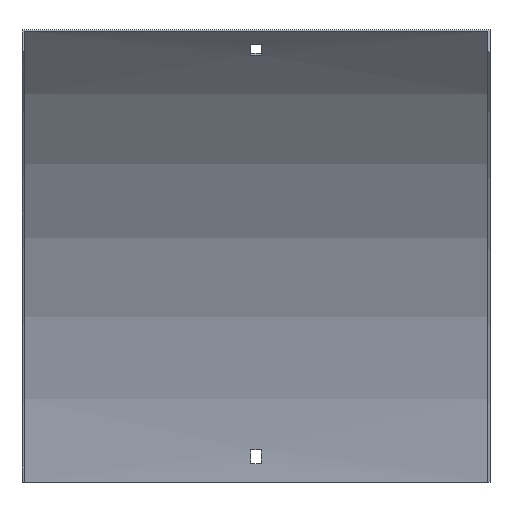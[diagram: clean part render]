
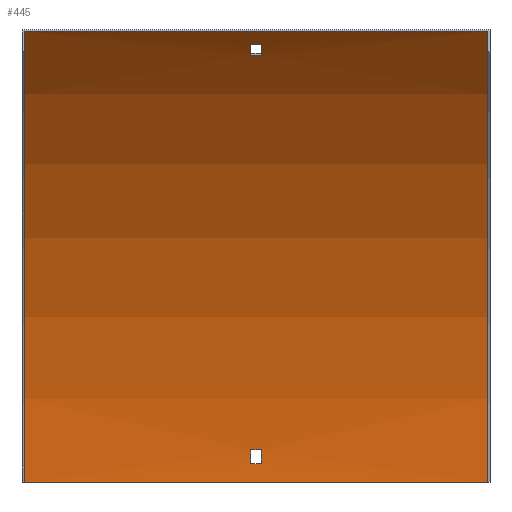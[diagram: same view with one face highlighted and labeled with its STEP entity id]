
A CAD part, front view. The second image highlights one B-rep face of the part: STEP entity #445.
In plain terms, the highlighted cylindrical face has radius 412.5 mm (diameter 825 mm), a partial arc.
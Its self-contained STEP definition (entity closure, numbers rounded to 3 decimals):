
#2 = DIRECTION ( 'NONE',  ( 1., 0., 0. ) ) ;
#11 = VERTEX_POINT ( 'NONE', #129 ) ;
#14 = EDGE_CURVE ( 'NONE', #11, #320, #501, .T. ) ;
#18 = EDGE_CURVE ( 'NONE', #114, #166, #307, .T. ) ;
#20 = DIRECTION ( 'NONE',  ( 1., 0., 0. ) ) ;
#24 = DIRECTION ( 'NONE',  ( -1., 0., 0. ) ) ;
#38 = CARTESIAN_POINT ( 'NONE',  ( 3.25, -1.675, 12. ) ) ;
#42 = CARTESIAN_POINT ( 'NONE',  ( -150., -1.5, 0. ) ) ;
#50 = DIRECTION ( 'NONE',  ( 1., 0., 0. ) ) ;
#60 = DIRECTION ( 'NONE',  ( 0., 0., -1. ) ) ;
#64 = VECTOR ( 'NONE', #161, 1000. ) ;
#72 = FACE_BOUND ( 'NONE', #171, .T. ) ;
#84 = DIRECTION ( 'NONE',  ( 0., 0., 1. ) ) ;
#90 = CARTESIAN_POINT ( 'NONE',  ( 150., -122.318, 291.682 ) ) ;
#110 = VECTOR ( 'NONE', #24, 1000. ) ;
#112 = DIRECTION ( 'NONE',  ( 1., 0., 0. ) ) ;
#114 = VERTEX_POINT ( 'NONE', #561 ) ;
#116 = CARTESIAN_POINT ( 'NONE',  ( 3.25, -2.035, 21. ) ) ;
#117 = ORIENTED_EDGE ( 'NONE', *, *, #14, .T. ) ;
#118 = VERTEX_POINT ( 'NONE', #423 ) ;
#129 = CARTESIAN_POINT ( 'NONE',  ( -3.25, -113.957, 283.073 ) ) ;
#139 = ORIENTED_EDGE ( 'NONE', *, *, #160, .T. ) ;
#141 = VECTOR ( 'NONE', #205, 1000. ) ;
#154 = AXIS2_PLACEMENT_3D ( 'NONE', #398, #409, #583 ) ;
#155 = CARTESIAN_POINT ( 'NONE',  ( 151.5, -107.847, 276.454 ) ) ;
#160 = EDGE_CURVE ( 'NONE', #259, #118, #189, .T. ) ;
#161 = DIRECTION ( 'NONE',  ( -1., 0., 0. ) ) ;
#162 = VECTOR ( 'NONE', #555, 1000. ) ;
#166 = VERTEX_POINT ( 'NONE', #42 ) ;
#167 = DIRECTION ( 'NONE',  ( -1., 0., 0. ) ) ;
#169 = CIRCLE ( 'NONE', #257, 412.5 ) ;
#171 = EDGE_LOOP ( 'NONE', ( #211, #382, #117, #496 ) ) ;
#175 = ORIENTED_EDGE ( 'NONE', *, *, #266, .F. ) ;
#187 = AXIS2_PLACEMENT_3D ( 'NONE', #317, #499, #84 ) ;
#189 = LINE ( 'NONE', #90, #162 ) ;
#200 = CARTESIAN_POINT ( 'NONE',  ( 151.5, -1.675, 12. ) ) ;
#205 = DIRECTION ( 'NONE',  ( -1., 0., 0. ) ) ;
#206 = EDGE_CURVE ( 'NONE', #231, #602, #476, .T. ) ;
#209 = CARTESIAN_POINT ( 'NONE',  ( 3.25, -414., 0. ) ) ;
#211 = ORIENTED_EDGE ( 'NONE', *, *, #206, .T. ) ;
#213 = ORIENTED_EDGE ( 'NONE', *, *, #462, .T. ) ;
#222 = DIRECTION ( 'NONE',  ( 1., 0., 0. ) ) ;
#224 = CIRCLE ( 'NONE', #311, 412.5 ) ;
#231 = VERTEX_POINT ( 'NONE', #385 ) ;
#247 = CARTESIAN_POINT ( 'NONE',  ( -3.25, -2.035, 21. ) ) ;
#250 = CARTESIAN_POINT ( 'NONE',  ( -3.25, -1.675, 12. ) ) ;
#251 = LINE ( 'NONE', #340, #64 ) ;
#257 = AXIS2_PLACEMENT_3D ( 'NONE', #281, #50, #477 ) ;
#259 = VERTEX_POINT ( 'NONE', #520 ) ;
#261 = CYLINDRICAL_SURFACE ( 'NONE', #187, 412.5 ) ;
#264 = DIRECTION ( 'NONE',  ( 0., 0., -1. ) ) ;
#266 = EDGE_CURVE ( 'NONE', #395, #590, #251, .T. ) ;
#281 = CARTESIAN_POINT ( 'NONE',  ( -150., -414., 0. ) ) ;
#291 = CIRCLE ( 'NONE', #570, 412.5 ) ;
#293 = VECTOR ( 'NONE', #438, 1000. ) ;
#297 = LINE ( 'NONE', #200, #293 ) ;
#304 = DIRECTION ( 'NONE',  ( 0., 0., 1. ) ) ;
#306 = FACE_BOUND ( 'NONE', #393, .T. ) ;
#307 = LINE ( 'NONE', #405, #110 ) ;
#309 = DIRECTION ( 'NONE',  ( 0., 0., -1. ) ) ;
#311 = AXIS2_PLACEMENT_3D ( 'NONE', #432, #2, #60 ) ;
#315 = EDGE_CURVE ( 'NONE', #470, #539, #297, .T. ) ;
#317 = CARTESIAN_POINT ( 'NONE',  ( 151.5, -414., 0. ) ) ;
#319 = CARTESIAN_POINT ( 'NONE',  ( 151.5, -113.957, 283.073 ) ) ;
#320 = VERTEX_POINT ( 'NONE', #479 ) ;
#324 = CIRCLE ( 'NONE', #343, 412.5 ) ;
#329 = ORIENTED_EDGE ( 'NONE', *, *, #18, .F. ) ;
#340 = CARTESIAN_POINT ( 'NONE',  ( 151.5, -2.035, 21. ) ) ;
#343 = AXIS2_PLACEMENT_3D ( 'NONE', #579, #20, #309 ) ;
#360 = FACE_OUTER_BOUND ( 'NONE', #427, .T. ) ;
#375 = EDGE_CURVE ( 'NONE', #602, #11, #324, .T. ) ;
#380 = EDGE_CURVE ( 'NONE', #539, #395, #424, .T. ) ;
#382 = ORIENTED_EDGE ( 'NONE', *, *, #375, .T. ) ;
#385 = CARTESIAN_POINT ( 'NONE',  ( 3.25, -107.847, 276.454 ) ) ;
#393 = EDGE_LOOP ( 'NONE', ( #467, #175, #557, #529 ) ) ;
#395 = VERTEX_POINT ( 'NONE', #116 ) ;
#398 = CARTESIAN_POINT ( 'NONE',  ( 3.25, -414., 0. ) ) ;
#400 = EDGE_CURVE ( 'NONE', #590, #470, #291, .T. ) ;
#405 = CARTESIAN_POINT ( 'NONE',  ( 150., -1.5, 0. ) ) ;
#409 = DIRECTION ( 'NONE',  ( -1., 0., 0. ) ) ;
#423 = CARTESIAN_POINT ( 'NONE',  ( -150., -122.318, 291.682 ) ) ;
#424 = CIRCLE ( 'NONE', #540, 412.5 ) ;
#427 = EDGE_LOOP ( 'NONE', ( #512, #329, #213, #139 ) ) ;
#432 = CARTESIAN_POINT ( 'NONE',  ( 150., -414., 0. ) ) ;
#438 = DIRECTION ( 'NONE',  ( 1., 0., 0. ) ) ;
#445 = ADVANCED_FACE ( 'NONE', ( #306, #360, #72 ), #261, .F. ) ;
#462 = EDGE_CURVE ( 'NONE', #114, #259, #224, .T. ) ;
#463 = VECTOR ( 'NONE', #222, 1000. ) ;
#467 = ORIENTED_EDGE ( 'NONE', *, *, #400, .F. ) ;
#470 = VERTEX_POINT ( 'NONE', #250 ) ;
#476 = LINE ( 'NONE', #155, #141 ) ;
#477 = DIRECTION ( 'NONE',  ( 0., 0., -1. ) ) ;
#479 = CARTESIAN_POINT ( 'NONE',  ( 3.25, -113.957, 283.073 ) ) ;
#488 = CARTESIAN_POINT ( 'NONE',  ( -3.25, -414., 0. ) ) ;
#496 = ORIENTED_EDGE ( 'NONE', *, *, #508, .T. ) ;
#499 = DIRECTION ( 'NONE',  ( -1., 0., 0. ) ) ;
#501 = LINE ( 'NONE', #319, #463 ) ;
#508 = EDGE_CURVE ( 'NONE', #320, #231, #601, .T. ) ;
#512 = ORIENTED_EDGE ( 'NONE', *, *, #575, .F. ) ;
#513 = CARTESIAN_POINT ( 'NONE',  ( -3.25, -107.847, 276.454 ) ) ;
#520 = CARTESIAN_POINT ( 'NONE',  ( 150., -122.318, 291.682 ) ) ;
#529 = ORIENTED_EDGE ( 'NONE', *, *, #315, .F. ) ;
#539 = VERTEX_POINT ( 'NONE', #38 ) ;
#540 = AXIS2_PLACEMENT_3D ( 'NONE', #209, #112, #264 ) ;
#555 = DIRECTION ( 'NONE',  ( -1., 0., 0. ) ) ;
#557 = ORIENTED_EDGE ( 'NONE', *, *, #380, .F. ) ;
#561 = CARTESIAN_POINT ( 'NONE',  ( 150., -1.5, 0. ) ) ;
#570 = AXIS2_PLACEMENT_3D ( 'NONE', #488, #167, #304 ) ;
#575 = EDGE_CURVE ( 'NONE', #166, #118, #169, .T. ) ;
#579 = CARTESIAN_POINT ( 'NONE',  ( -3.25, -414., 0. ) ) ;
#583 = DIRECTION ( 'NONE',  ( 0., 0., 1. ) ) ;
#590 = VERTEX_POINT ( 'NONE', #247 ) ;
#601 = CIRCLE ( 'NONE', #154, 412.5 ) ;
#602 = VERTEX_POINT ( 'NONE', #513 ) ;
